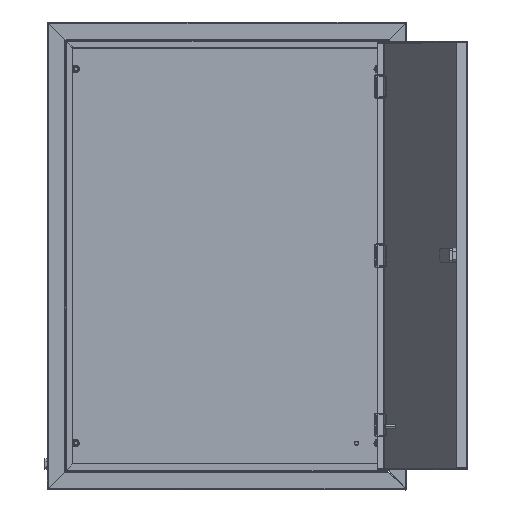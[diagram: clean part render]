
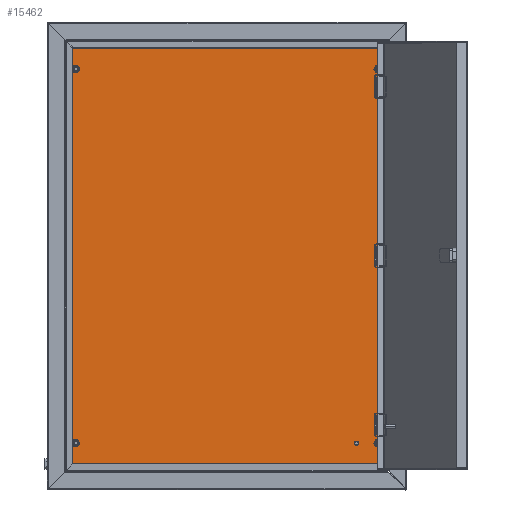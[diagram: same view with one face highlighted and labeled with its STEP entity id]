
A CAD part, top view. The second image highlights one B-rep face of the part: STEP entity #15462.
In plain terms, the highlighted planar face has unit normal (0, 0, 1).
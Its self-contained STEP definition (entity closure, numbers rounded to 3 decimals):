
#11 = CARTESIAN_POINT ( 'NONE',  ( 1.937, 1.937, 0. ) ) ;
#227 = CARTESIAN_POINT ( 'NONE',  ( 430., 550., 0. ) ) ;
#345 = VERTEX_POINT ( 'NONE', #15066 ) ;
#359 = CIRCLE ( 'NONE', #14259, 3. ) ;
#391 = DIRECTION ( 'NONE',  ( -1., 0., 0. ) ) ;
#676 = CARTESIAN_POINT ( 'NONE',  ( 10., 550., 0. ) ) ;
#921 = EDGE_CURVE ( 'NONE', #13601, #11219, #15047, .T. ) ;
#1024 = CARTESIAN_POINT ( 'NONE',  ( 438.093, 578.063, 0. ) ) ;
#1161 = CARTESIAN_POINT ( 'NONE',  ( 426., 30., 0. ) ) ;
#1217 = EDGE_CURVE ( 'NONE', #14629, #13104, #359, .T. ) ;
#1330 = DIRECTION ( 'NONE',  ( 0., 0., 1. ) ) ;
#1508 = CARTESIAN_POINT ( 'NONE',  ( 14., 30., 0. ) ) ;
#1603 = CARTESIAN_POINT ( 'NONE',  ( 397., 30., 0. ) ) ;
#1897 = CARTESIAN_POINT ( 'NONE',  ( 430., 30., 0. ) ) ;
#1919 = DIRECTION ( 'NONE',  ( 0., 0., 1. ) ) ;
#1935 = ORIENTED_EDGE ( 'NONE', *, *, #12054, .F. ) ;
#2157 = CARTESIAN_POINT ( 'NONE',  ( 14., 550., 0. ) ) ;
#2293 = DIRECTION ( 'NONE',  ( -1., 0., 0. ) ) ;
#2404 = CARTESIAN_POINT ( 'NONE',  ( 1.907, 1.937, 0. ) ) ;
#2577 = DIRECTION ( 'NONE',  ( 0., 0., 1. ) ) ;
#2956 = ORIENTED_EDGE ( 'NONE', *, *, #921, .T. ) ;
#3079 = CARTESIAN_POINT ( 'NONE',  ( 430., 550., 0. ) ) ;
#3148 = ORIENTED_EDGE ( 'NONE', *, *, #1217, .F. ) ;
#3219 = DIRECTION ( 'NONE',  ( 0., 0., 1. ) ) ;
#3489 = AXIS2_PLACEMENT_3D ( 'NONE', #3079, #1919, #391 ) ;
#3669 = CARTESIAN_POINT ( 'NONE',  ( 10., 30., 0. ) ) ;
#3738 = CARTESIAN_POINT ( 'NONE',  ( 1.937, 578.063, 0. ) ) ;
#3808 = CARTESIAN_POINT ( 'NONE',  ( 6., 30., 0. ) ) ;
#3817 = ORIENTED_EDGE ( 'NONE', *, *, #5733, .F. ) ;
#3883 = DIRECTION ( 'NONE',  ( 0., 0., 1. ) ) ;
#3910 = FACE_BOUND ( 'NONE', #5886, .T. ) ;
#4198 = VERTEX_POINT ( 'NONE', #4919 ) ;
#4291 = FACE_OUTER_BOUND ( 'NONE', #9053, .T. ) ;
#4320 = ORIENTED_EDGE ( 'NONE', *, *, #7596, .F. ) ;
#4373 = AXIS2_PLACEMENT_3D ( 'NONE', #5452, #6699, #5345 ) ;
#4584 = CARTESIAN_POINT ( 'NONE',  ( 434., 30., 0. ) ) ;
#4692 = EDGE_LOOP ( 'NONE', ( #3817, #5222 ) ) ;
#4704 = VERTEX_POINT ( 'NONE', #1161 ) ;
#4719 = DIRECTION ( 'NONE',  ( 0., 0., 1. ) ) ;
#4886 = DIRECTION ( 'NONE',  ( -1., 0., 0. ) ) ;
#4895 = CARTESIAN_POINT ( 'NONE',  ( 438.063, 1.907, 0. ) ) ;
#4919 = CARTESIAN_POINT ( 'NONE',  ( 438.063, 1.937, 0. ) ) ;
#4948 = CIRCLE ( 'NONE', #12662, 4. ) ;
#4965 = DIRECTION ( 'NONE',  ( -1., 0., 0. ) ) ;
#5060 = EDGE_CURVE ( 'NONE', #8648, #10333, #10260, .T. ) ;
#5222 = ORIENTED_EDGE ( 'NONE', *, *, #5060, .F. ) ;
#5312 = EDGE_CURVE ( 'NONE', #6890, #4198, #8353, .T. ) ;
#5345 = DIRECTION ( 'NONE',  ( -1., 0., 0. ) ) ;
#5452 = CARTESIAN_POINT ( 'NONE',  ( 10., 30., 0. ) ) ;
#5733 = EDGE_CURVE ( 'NONE', #10333, #8648, #11531, .T. ) ;
#5823 = CIRCLE ( 'NONE', #10493, 4. ) ;
#5886 = EDGE_LOOP ( 'NONE', ( #6825, #14951 ) ) ;
#6155 = DIRECTION ( 'NONE',  ( 1., 0., 0. ) ) ;
#6188 = EDGE_CURVE ( 'NONE', #13104, #14629, #8714, .T. ) ;
#6698 = DIRECTION ( 'NONE',  ( 1., 0., 0. ) ) ;
#6699 = DIRECTION ( 'NONE',  ( 0., 0., 1. ) ) ;
#6825 = ORIENTED_EDGE ( 'NONE', *, *, #9706, .F. ) ;
#6890 = VERTEX_POINT ( 'NONE', #11 ) ;
#7214 = ORIENTED_EDGE ( 'NONE', *, *, #8108, .T. ) ;
#7275 = CARTESIAN_POINT ( 'NONE',  ( 426., 550., 0. ) ) ;
#7383 = AXIS2_PLACEMENT_3D ( 'NONE', #9766, #9714, #8488 ) ;
#7501 = FACE_BOUND ( 'NONE', #8030, .T. ) ;
#7550 = VECTOR ( 'NONE', #13166, 1000. ) ;
#7596 = EDGE_CURVE ( 'NONE', #11449, #13879, #8090, .T. ) ;
#7686 = FACE_BOUND ( 'NONE', #13524, .T. ) ;
#7696 = CARTESIAN_POINT ( 'NONE',  ( 434., 550., 0. ) ) ;
#7782 = DIRECTION ( 'NONE',  ( 0., 0., 1. ) ) ;
#8030 = EDGE_LOOP ( 'NONE', ( #4320, #14098 ) ) ;
#8090 = CIRCLE ( 'NONE', #3489, 4. ) ;
#8108 = EDGE_CURVE ( 'NONE', #11219, #6890, #10518, .T. ) ;
#8223 = DIRECTION ( 'NONE',  ( 0., -1., 0. ) ) ;
#8353 = LINE ( 'NONE', #2404, #11190 ) ;
#8488 = DIRECTION ( 'NONE',  ( -1., 0., 0. ) ) ;
#8577 = CARTESIAN_POINT ( 'NONE',  ( 400., 30., 0. ) ) ;
#8648 = VERTEX_POINT ( 'NONE', #3808 ) ;
#8694 = CARTESIAN_POINT ( 'NONE',  ( 438.063, 578.063, 0. ) ) ;
#8707 = CARTESIAN_POINT ( 'NONE',  ( 430., 30., 0. ) ) ;
#8714 = CIRCLE ( 'NONE', #12656, 3. ) ;
#8982 = EDGE_CURVE ( 'NONE', #13879, #11449, #12549, .T. ) ;
#9053 = EDGE_LOOP ( 'NONE', ( #7214, #9252, #14582, #2956 ) ) ;
#9245 = DIRECTION ( 'NONE',  ( 1., 0., 0. ) ) ;
#9252 = ORIENTED_EDGE ( 'NONE', *, *, #5312, .T. ) ;
#9703 = DIRECTION ( 'NONE',  ( 1., 0., 0. ) ) ;
#9706 = EDGE_CURVE ( 'NONE', #12874, #4704, #12710, .T. ) ;
#9714 = DIRECTION ( 'NONE',  ( 0., 0., -1. ) ) ;
#9766 = CARTESIAN_POINT ( 'NONE',  ( 0., 0., 0. ) ) ;
#9872 = DIRECTION ( 'NONE',  ( -1., 0., 0. ) ) ;
#9951 = EDGE_CURVE ( 'NONE', #4198, #13601, #15122, .T. ) ;
#10151 = VERTEX_POINT ( 'NONE', #2157 ) ;
#10260 = CIRCLE ( 'NONE', #4373, 4. ) ;
#10333 = VERTEX_POINT ( 'NONE', #1508 ) ;
#10351 = FACE_BOUND ( 'NONE', #4692, .T. ) ;
#10493 = AXIS2_PLACEMENT_3D ( 'NONE', #15235, #15170, #9245 ) ;
#10518 = LINE ( 'NONE', #15411, #12758 ) ;
#10654 = AXIS2_PLACEMENT_3D ( 'NONE', #3669, #12116, #4886 ) ;
#10814 = PLANE ( 'NONE',  #7383 ) ;
#10858 = AXIS2_PLACEMENT_3D ( 'NONE', #8707, #2577, #6155 ) ;
#11190 = VECTOR ( 'NONE', #9703, 1000. ) ;
#11219 = VERTEX_POINT ( 'NONE', #3738 ) ;
#11221 = VECTOR ( 'NONE', #13388, 1000. ) ;
#11340 = EDGE_CURVE ( 'NONE', #4704, #12874, #15102, .T. ) ;
#11449 = VERTEX_POINT ( 'NONE', #7696 ) ;
#11460 = FACE_BOUND ( 'NONE', #11665, .T. ) ;
#11531 = CIRCLE ( 'NONE', #10654, 4. ) ;
#11665 = EDGE_LOOP ( 'NONE', ( #12178, #3148 ) ) ;
#11720 = CARTESIAN_POINT ( 'NONE',  ( 400., 30., 0. ) ) ;
#12054 = EDGE_CURVE ( 'NONE', #10151, #345, #4948, .T. ) ;
#12116 = DIRECTION ( 'NONE',  ( 0., 0., 1. ) ) ;
#12130 = ORIENTED_EDGE ( 'NONE', *, *, #14839, .F. ) ;
#12178 = ORIENTED_EDGE ( 'NONE', *, *, #6188, .F. ) ;
#12402 = AXIS2_PLACEMENT_3D ( 'NONE', #227, #3883, #9872 ) ;
#12438 = CARTESIAN_POINT ( 'NONE',  ( 403., 30., 0. ) ) ;
#12549 = CIRCLE ( 'NONE', #12402, 4. ) ;
#12610 = AXIS2_PLACEMENT_3D ( 'NONE', #1897, #3219, #12861 ) ;
#12656 = AXIS2_PLACEMENT_3D ( 'NONE', #11720, #4719, #2293 ) ;
#12662 = AXIS2_PLACEMENT_3D ( 'NONE', #676, #7782, #6698 ) ;
#12710 = CIRCLE ( 'NONE', #12610, 4. ) ;
#12758 = VECTOR ( 'NONE', #8223, 1000. ) ;
#12861 = DIRECTION ( 'NONE',  ( 1., 0., 0. ) ) ;
#12874 = VERTEX_POINT ( 'NONE', #4584 ) ;
#13104 = VERTEX_POINT ( 'NONE', #1603 ) ;
#13166 = DIRECTION ( 'NONE',  ( -1., 0., 0. ) ) ;
#13388 = DIRECTION ( 'NONE',  ( 0., 1., 0. ) ) ;
#13524 = EDGE_LOOP ( 'NONE', ( #1935, #12130 ) ) ;
#13601 = VERTEX_POINT ( 'NONE', #8694 ) ;
#13879 = VERTEX_POINT ( 'NONE', #7275 ) ;
#14098 = ORIENTED_EDGE ( 'NONE', *, *, #8982, .F. ) ;
#14259 = AXIS2_PLACEMENT_3D ( 'NONE', #8577, #1330, #4965 ) ;
#14582 = ORIENTED_EDGE ( 'NONE', *, *, #9951, .T. ) ;
#14629 = VERTEX_POINT ( 'NONE', #12438 ) ;
#14839 = EDGE_CURVE ( 'NONE', #345, #10151, #5823, .T. ) ;
#14951 = ORIENTED_EDGE ( 'NONE', *, *, #11340, .F. ) ;
#15047 = LINE ( 'NONE', #1024, #7550 ) ;
#15066 = CARTESIAN_POINT ( 'NONE',  ( 6., 550., 0. ) ) ;
#15102 = CIRCLE ( 'NONE', #10858, 4. ) ;
#15122 = LINE ( 'NONE', #4895, #11221 ) ;
#15170 = DIRECTION ( 'NONE',  ( 0., 0., 1. ) ) ;
#15235 = CARTESIAN_POINT ( 'NONE',  ( 10., 550., 0. ) ) ;
#15411 = CARTESIAN_POINT ( 'NONE',  ( 1.937, 578.093, 0. ) ) ;
#15462 = ADVANCED_FACE ( 'NONE', ( #11460, #10351, #3910, #7501, #7686, #4291 ), #10814, .F. ) ;
